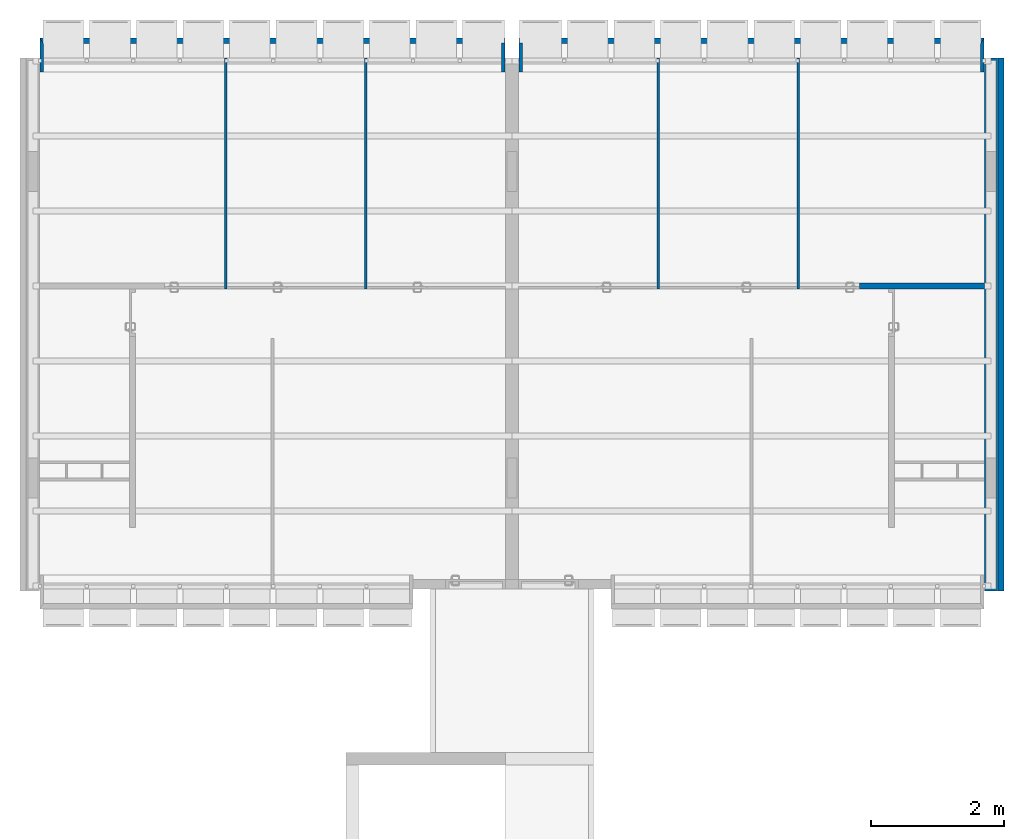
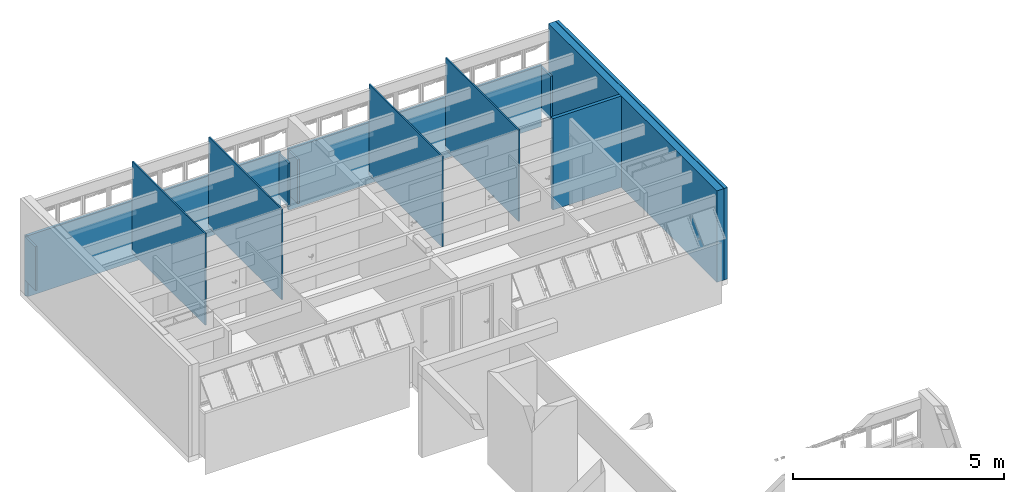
# One storey, part 40 of 40: 13 walls.
"""IFC4 building model written with IfcOpenShell, lengths in millimetres."""

import ifcopenshell
import ifcopenshell.guid

model = None  # the IFC model being written
_history = None  # IfcOwnerHistory: only IFC2X3 demands one
_inside = {}  # id of a spatial element -> (the spatial element, [elements in it])
_under = {}  # id of a project, library or spatial element -> (it, [spatial elements below it])
_declared = {}  # id of a project -> (the project, [libraries it declares])
_typed = {}  # id of a type object -> (the type object, [elements of that type])
_made_of = {}  # id of a material, layer set ... -> (it, [elements and type objects made of it])


def new_model(schema):
    """Start an empty IFC model of exactly this schema.

    Asked for "IFC4X3", IfcOpenShell would pick the latest addendum, in which some entities
    have other attributes; the version numbers below select the first issue.
    IFC2X3 requires an IfcOwnerHistory on every rooted entity: one is made here for all.
    """
    global model, _history
    if schema == "IFC4X3":
        model = ifcopenshell.file(schema_version=(4, 3, 0, 0))
    else:
        model = ifcopenshell.file(schema=schema)
    _inside.clear()
    _under.clear()
    _declared.clear()
    _typed.clear()
    _made_of.clear()
    _history = None
    if model.schema == "IFC2X3":
        org = make("IfcOrganization", Name="unknown")
        user = make(
            "IfcPersonAndOrganization",
            ThePerson=make("IfcPerson", FamilyName="unknown"),
            TheOrganization=org,
        )
        app = make(
            "IfcApplication",
            ApplicationDeveloper=org,
            Version="unknown",
            ApplicationFullName="unknown",
            ApplicationIdentifier="unknown",
        )
        _history = make(
            "IfcOwnerHistory",
            OwningUser=user,
            OwningApplication=app,
            ChangeAction="ADDED",
            CreationDate=0,
        )
    return model


def make(cls, **values):
    """One entity of the class cls with the attributes given. An attribute that is None is left unset."""
    return model.create_entity(
        cls, **{name: value for name, value in values.items() if value is not None}
    )


def entity(cls, *values):
    """Any entity or typed value of the class cls, its attributes in the order of the schema. None: left unset."""
    e = model.create_entity(cls)
    for i, value in enumerate(values):
        if value is not None:
            e[i] = value
    return e


def rooted(cls, **values):
    """An entity with a GlobalId (a new one), such as an element, a storey or a relation."""
    return make(cls, GlobalId=ifcopenshell.guid.new(), OwnerHistory=_history, **values)


def si_unit(unit_type, name, prefix=None):
    """IfcSIUnit, for example si_unit("LENGTHUNIT", "METRE", prefix="MILLI")."""
    return make("IfcSIUnit", UnitType=unit_type, Prefix=prefix, Name=name)


def converted_unit(unit_type, name, factor, base, dimensions=None, offset=None):
    """IfcConversionBasedUnit, such as the inch: factor (a typed value) times the base unit."""
    return make(
        "IfcConversionBasedUnit"
        if offset is None
        else "IfcConversionBasedUnitWithOffset",
        ConversionOffset=offset,
        Dimensions=None
        if dimensions is None
        else entity("IfcDimensionalExponents", *dimensions),
        UnitType=unit_type,
        Name=name,
        ConversionFactor=make(
            "IfcMeasureWithUnit", ValueComponent=factor, UnitComponent=base
        ),
    )


def derived_unit(unit_type, elements):
    """IfcDerivedUnit: a product of units, each with its exponent."""
    return make(
        "IfcDerivedUnit",
        Elements=[
            make("IfcDerivedUnitElement", Unit=unit, Exponent=power)
            for unit, power in elements
        ],
        UnitType=unit_type,
    )


def assignment(units):
    """IfcUnitAssignment: the units of a project."""
    return None if units is None else make("IfcUnitAssignment", Units=units)


def point(xyz):
    """IfcCartesianPoint."""
    return None if xyz is None else make("IfcCartesianPoint", Coordinates=xyz)


def direction(xyz):
    """IfcDirection."""
    return None if xyz is None else make("IfcDirection", DirectionRatios=xyz)


def frame(location, z_axis=None, x_axis=None):
    """IfcAxis2Placement3D, a coordinate frame: its origin and axes. An axis left out is left unset."""
    return make(
        "IfcAxis2Placement3D",
        Location=point(location),
        Axis=direction(z_axis),
        RefDirection=direction(x_axis),
    )


def origin_with_axes():
    """The frame at (0, 0, 0) with the z axis (0, 0, 1) and the x axis (1, 0, 0) written out."""
    return frame((0.0, 0.0, 0.0), z_axis=(0.0, 0.0, 1.0), x_axis=(1.0, 0.0, 0.0))


def place(relative_to, where):
    """IfcLocalPlacement: puts the frame where relative to a parent placement (None: the world)."""
    return make(
        "IfcLocalPlacement", PlacementRelTo=relative_to, RelativePlacement=where
    )


def context(
    kind, dimensions, precision=None, world=None, true_north=None, identifier=None
):
    """IfcGeometricRepresentationContext, for example the 3D "Model" context."""
    return make(
        "IfcGeometricRepresentationContext",
        ContextIdentifier=identifier,
        ContextType=kind,
        CoordinateSpaceDimension=dimensions,
        Precision=precision,
        WorldCoordinateSystem=world,
        TrueNorth=true_north,
    )


def subcontext(parent, identifier, kind, view, scale=None):
    """IfcGeometricRepresentationSubContext, for example "Body" below "Model"."""
    return make(
        "IfcGeometricRepresentationSubContext",
        ContextIdentifier=identifier,
        ContextType=kind,
        ParentContext=parent,
        TargetScale=scale,
        TargetView=view,
    )


def project(units=None, contexts=None):
    """IfcProject with its units and contexts."""
    return rooted(
        "IfcProject",
        Name="project",
        RepresentationContexts=contexts,
        UnitsInContext=assignment(units),
    )


def spatial(cls, under=None, at=None, **own):
    """A site, building, storey or space (cls), placed at a placement, below another one or the project."""
    s = rooted(cls, ObjectPlacement=at, **own)
    if under is not None:
        _under.setdefault(under.id(), (under, []))[1].append(s)
    return s


def point_list(points):
    """IfcCartesianPointList2D or 3D."""
    cls = (
        "IfcCartesianPointList2D" if len(points[0]) == 2 else "IfcCartesianPointList3D"
    )
    return make(cls, CoordList=points)


def line(*indices):
    """IfcLineIndex: a straight run through numbered points of an indexed curve."""
    return model.create_entity("IfcLineIndex", indices)


def indexed_curve(points, segments=None, self_intersect=None):
    """IfcIndexedPolyCurve: lines and arcs through numbered points (the first is 1)."""
    return make(
        "IfcIndexedPolyCurve",
        Points=point_list(points),
        Segments=segments,
        SelfIntersect=self_intersect,
    )


def outline(outer, holes=None, kind="AREA"):
    """IfcArbitraryClosedProfileDef: a profile drawn as a closed curve; with holes, ...WithVoids."""
    if holes is None:
        return make("IfcArbitraryClosedProfileDef", ProfileType=kind, OuterCurve=outer)
    return make(
        "IfcArbitraryProfileDefWithVoids",
        ProfileType=kind,
        OuterCurve=outer,
        InnerCurves=holes,
    )


def extrude(swept, where, along, depth):
    """IfcExtrudedAreaSolid: the profile swept, set in the frame where, extruded along a direction by depth."""
    return make(
        "IfcExtrudedAreaSolid",
        SweptArea=swept,
        Position=where,
        ExtrudedDirection=direction(along),
        Depth=depth,
    )


def shape(context_of_items, identifier, shape_type, items):
    """IfcShapeRepresentation: the items that make up one representation, for example the "Body"."""
    return make(
        "IfcShapeRepresentation",
        ContextOfItems=context_of_items,
        RepresentationIdentifier=identifier,
        RepresentationType=shape_type,
        Items=items,
    )


def material(Name=None, Category=None):
    """IfcMaterial."""
    return make("IfcMaterial", Name=Name, Category=Category)


def layer(
    of_material, thickness, ventilated=None, Name=None, Category=None, Priority=None
):
    """IfcMaterialLayer: one layer of a wall or slab, of a material (None: an air gap)."""
    return make(
        "IfcMaterialLayer",
        Material=of_material,
        LayerThickness=thickness,
        IsVentilated=ventilated,
        Name=Name,
        Category=Category,
        Priority=Priority,
    )


def layer_set(layers, Name=None):
    """IfcMaterialLayerSet."""
    return make("IfcMaterialLayerSet", MaterialLayers=layers, LayerSetName=Name)


def layer_usage(for_layer_set, set_direction, sense, offset, extent=None):
    """IfcMaterialLayerSetUsage: how a layer set lies in its element."""
    return make(
        "IfcMaterialLayerSetUsage",
        ForLayerSet=for_layer_set,
        LayerSetDirection=set_direction,
        DirectionSense=sense,
        OffsetFromReferenceLine=offset,
        ReferenceExtent=extent,
    )


def made_of(thing, what):
    """Note that an element or type object is made of a material, layer set ...; save() writes the relation."""
    if what is not None:
        _made_of.setdefault(what.id(), (what, []))[1].append(thing)
    return thing


def type_object(cls, material=None, **own):
    """A type object (cls), such as IfcWallType, which elements share."""
    return made_of(rooted(cls, **own), material)


def element(
    cls,
    number,
    at=None,
    inside=None,
    cuts=None,
    type_object=None,
    material=None,
    context=None,
    identifier="Body",
    shape_type=None,
    held_by="IfcProductDefinitionShape",
    body=None,
    shapes=None,
    **own,
):
    """One element of the class cls, such as IfcWall. Its Tag is "e" and its number.

    at: its placement. inside: the storey or other place that contains it. cuts: it is an
    opening in that element (IfcRelVoidsElement). A single representation is given by context,
    identifier, shape_type and body (its items); several are given by shapes. held_by: the class
    of the entity that holds the representations. save() writes the other relations.
    """
    e = rooted(cls, Tag="e%d" % number, ObjectPlacement=at, **own)
    if body is not None:
        shapes = [shape(context, identifier, shape_type, body)]
    if shapes is not None:
        e.Representation = make(held_by, Representations=shapes)
    if inside is not None:
        _inside.setdefault(inside.id(), (inside, []))[1].append(e)
    if cuts is not None:
        rooted(
            "IfcRelVoidsElement", RelatingBuildingElement=cuts, RelatedOpeningElement=e
        )
    if type_object is not None:
        _typed.setdefault(type_object.id(), (type_object, []))[1].append(e)
    return made_of(e, material)


def aggregate(whole, parts):
    """IfcRelAggregates: a whole, such as a stair, and the parts it consists of."""
    return rooted("IfcRelAggregates", RelatingObject=whole, RelatedObjects=parts)


def save(model, path):
    """Write the relations noted so far, then the file.

    IfcRelAggregates (storeys below a building ...), IfcRelContainedInSpatialStructure (elements
    in a storey), IfcRelDefinesByType, IfcRelAssociatesMaterial and IfcRelDeclares: one each for
    every whole, place, type object, material and project.
    """
    for whole, parts in _under.values():
        aggregate(whole, parts)
    for where, things in _inside.values():
        rooted(
            "IfcRelContainedInSpatialStructure",
            RelatedElements=things,
            RelatingStructure=where,
        )
    for kind, things in _typed.values():
        rooted("IfcRelDefinesByType", RelatedObjects=things, RelatingType=kind)
    for what, things in _made_of.values():
        rooted("IfcRelAssociatesMaterial", RelatedObjects=things, RelatingMaterial=what)
    for by, libraries in _declared.values():
        rooted("IfcRelDeclares", RelatingContext=by, RelatedDefinitions=libraries)
    model.write(path)


model = new_model("IFC4")

# Units and contexts
model_context = context("Model", 3, precision=0.01, world=origin_with_axes(), true_north=direction((0.0, 1.0)))
body_context = subcontext(model_context, "Body", "Model", "MODEL_VIEW")
ifc_project = project(units=[si_unit("LENGTHUNIT", "METRE", prefix="MILLI"), si_unit("AREAUNIT", "SQUARE_METRE"), si_unit("VOLUMEUNIT", "CUBIC_METRE"), converted_unit("PLANEANGLEUNIT", "DEGREE", entity("IfcPlaneAngleMeasure", 0.0174532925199), si_unit("PLANEANGLEUNIT", "RADIAN"), dimensions=[0, 0, 0, 0, 0, 0, 0]), converted_unit("TIMEUNIT", "Year", entity("IfcTimeMeasure", 31556926.0), si_unit("TIMEUNIT", "SECOND"), dimensions=[0, 0, 1, 0, 0, 0, 0]), si_unit("MASSUNIT", "GRAM", prefix="KILO"), si_unit("THERMODYNAMICTEMPERATUREUNIT", "DEGREE_CELSIUS"), si_unit("LUMINOUSINTENSITYUNIT", "LUMEN"), si_unit("ENERGYUNIT", "JOULE", prefix="MEGA"), derived_unit("THERMALCONDUCTANCEUNIT", [(si_unit("POWERUNIT", "WATT"), 1), (si_unit("LENGTHUNIT", "METRE"), -1), (si_unit("THERMODYNAMICTEMPERATUREUNIT", "KELVIN"), -1)]), derived_unit("SPECIFICHEATCAPACITYUNIT", [(si_unit("ENERGYUNIT", "JOULE"), 1), (si_unit("MASSUNIT", "GRAM", prefix="KILO"), -1), (si_unit("THERMODYNAMICTEMPERATUREUNIT", "KELVIN"), -1)]), derived_unit("MASSDENSITYUNIT", [(si_unit("MASSUNIT", "GRAM", prefix="KILO"), 1), (si_unit("VOLUMEUNIT", "CUBIC_METRE"), -1)])], contexts=[model_context])

# Site, building, storey
site_placement = place(None, origin_with_axes())
site = spatial("IfcSite", under=ifc_project, at=site_placement, Name="Local", CompositionType="ELEMENT")
building_placement = place(site_placement, origin_with_axes())
building = spatial("IfcBuilding", under=site, at=building_placement, Name="Construção", CompositionType="ELEMENT")
storey_placement = place(building_placement, frame((0.0, 0.0, 5300.0), z_axis=(0.0, 0.0, 1.0), x_axis=(1.0, 0.0, 0.0)))
storey = spatial("IfcBuildingStorey", under=building, at=storey_placement, Name="Terceiro Pavimento", CompositionType="ELEMENT", Elevation=5300.0)

# Walls
ifc_material_1 = material(Name="GENÉRICO - VEDAÇÃO EXTERNA")
ifc_layer_1 = layer(ifc_material_1, 190.0, ventilated="UNKNOWN", Name="GENÉRICO - VEDAÇÃO EXTERNA")
ifc_layer_set_1 = layer_set([ifc_layer_1], Name="GENÉRICO - VEDAÇÃO EXTERNA 190")
ifc_layer_usage_1 = layer_usage(ifc_layer_set_1, "AXIS2", "NEGATIVE", 0.0)
wall_type_1 = type_object("IfcWallType", Name="GENÉRICO - VEDAÇÃO EXTERNA 190", PredefinedType="NOTDEFINED")
wall_1_placement = place(storey_placement, frame((14480.0, 17860.0, 0.0), z_axis=(0.0, 0.0, 1.0), x_axis=(0.0, 1.0, 0.0)))
element("IfcWall", 1, at=wall_1_placement, inside=storey, type_object=wall_type_1, material=ifc_layer_usage_1, Name="APTO12-PAREDE-013", PredefinedType="NOTDEFINED", context=body_context, shape_type="SweptSolid", body=[
    extrude(outline(indexed_curve([(0.0, -190.0), (8000.0, -190.0), (8000.0, 0.0), (0.0, 0.0)], segments=[line(1, 2, 3, 4, 1)])), origin_with_axes(), (0.0, 0.0, 1.0), 2650.0),
])
ifc_layer_2 = layer(ifc_material_1, 40.0, ventilated="UNKNOWN", Name="GENÉRICO - VEDAÇÃO EXTERNA")
ifc_layer_set_2 = layer_set([ifc_layer_2], Name="GENÉRICO - VEDAÇÃO EXTERNA 40")
ifc_layer_usage_2 = layer_usage(ifc_layer_set_2, "AXIS2", "POSITIVE", 0.0)
wall_type_2 = type_object("IfcWallType", Name="GENÉRICO - VEDAÇÃO EXTERNA 40", PredefinedType="NOTDEFINED")
wall_2_placement = place(storey_placement, frame((5210.0, 22395.0, 0.0), z_axis=(0.0, 0.0, 1.0), x_axis=(0.0, 1.0, 0.0)))
element("IfcWall", 2, at=wall_2_placement, inside=storey, type_object=wall_type_2, material=ifc_layer_usage_2, Name="APTO11-PAREDE-005", PredefinedType="NOTDEFINED", context=body_context, shape_type="SweptSolid", body=[
    extrude(outline(indexed_curve([(0.0, 0.0), (3465.0, 0.0), (3465.0, 40.0), (0.0, 40.0)], segments=[line(1, 2, 3, 4, 1)])), origin_with_axes(), (0.0, 0.0, 1.0), 2620.0),
])
ifc_layer_usage_3 = layer_usage(ifc_layer_set_2, "AXIS2", "POSITIVE", 0.0)
wall_3_placement = place(storey_placement, frame((3110.0, 22395.0, 0.0), z_axis=(0.0, 0.0, 1.0), x_axis=(0.0, 1.0, 0.0)))
element("IfcWall", 3, at=wall_3_placement, inside=storey, type_object=wall_type_2, material=ifc_layer_usage_3, Name="APTO11-PAREDE-007", PredefinedType="NOTDEFINED", context=body_context, shape_type="SweptSolid", body=[
    extrude(outline(indexed_curve([(0.0, 0.0), (3465.0, 0.0), (3465.0, 40.0), (0.0, 40.0)], segments=[line(1, 2, 3, 4, 1)])), origin_with_axes(), (0.0, 0.0, 1.0), 2650.0),
])
ifc_layer_usage_4 = layer_usage(ifc_layer_set_2, "AXIS2", "NEGATIVE", 0.0)
wall_4_placement = place(storey_placement, frame((9560.0, 22395.0, 0.0), z_axis=(0.0, 0.0, 1.0), x_axis=(0.0, 1.0, 0.0)))
element("IfcWall", 4, at=wall_4_placement, inside=storey, type_object=wall_type_2, material=ifc_layer_usage_4, Name="APTO12-PAREDE-005", PredefinedType="NOTDEFINED", context=body_context, shape_type="SweptSolid", body=[
    extrude(outline(indexed_curve([(0.0, -40.0), (3465.0, -40.0), (3465.0, 0.0), (0.0, 0.0)], segments=[line(1, 2, 3, 4, 1)])), origin_with_axes(), (0.0, 0.0, 1.0), 2620.0),
])
ifc_layer_usage_5 = layer_usage(ifc_layer_set_2, "AXIS2", "NEGATIVE", 0.0)
wall_5_placement = place(storey_placement, frame((11660.0, 22395.0, 0.0), z_axis=(0.0, 0.0, 1.0), x_axis=(0.0, 1.0, 0.0)))
element("IfcWall", 5, at=wall_5_placement, inside=storey, type_object=wall_type_2, material=ifc_layer_usage_5, Name="APTO12-PAREDE-007", PredefinedType="NOTDEFINED", context=body_context, shape_type="SweptSolid", body=[
    extrude(outline(indexed_curve([(0.0, -40.0), (3465.0, -40.0), (3465.0, 0.0), (0.0, 0.0)], segments=[line(1, 2, 3, 4, 1)])), origin_with_axes(), (0.0, 0.0, 1.0), 2650.0),
])
ifc_layer_3 = layer(ifc_material_1, 90.0, ventilated="UNKNOWN", Name="GENÉRICO - VEDAÇÃO EXTERNA")
ifc_layer_set_3 = layer_set([ifc_layer_3], Name="GENÉRICO - VEDAÇÃO EXTERNA 90")
ifc_layer_usage_6 = layer_usage(ifc_layer_set_3, "AXIS2", "NEGATIVE", 0.0)
wall_type_3 = type_object("IfcWallType", Name="GENÉRICO - VEDAÇÃO EXTERNA 90", PredefinedType="NOTDEFINED")
wall_6_placement = place(storey_placement, frame((14480.0, 22394.7804333, 0.0), z_axis=(0.0, 0.0, 1.0), x_axis=(-1.0, 0.0, 0.0)))
element("IfcWall", 6, at=wall_6_placement, inside=storey, type_object=wall_type_3, material=ifc_layer_usage_6, Name="APTO12-PAREDE-019", PredefinedType="NOTDEFINED", context=body_context, shape_type="SweptSolid", body=[
    extrude(outline(indexed_curve([(0.0, -90.0), (1879.99807021, -90.0), (1880.0, 0.0), (0.0, 0.0)], segments=[line(1, 2, 3, 4, 1)])), origin_with_axes(), (0.0, 0.0, 1.0), 2650.0),
])
ifc_layer_usage_7 = layer_usage(ifc_layer_set_3, "AXIS2", "NEGATIVE", 0.0)
wall_7_placement = place(storey_placement, frame((14680.0, 17860.0, 0.0), z_axis=(0.0, 0.0, 1.0), x_axis=(0.0, 1.0, 0.0)))
element("IfcWall", 7, at=wall_7_placement, inside=storey, type_object=wall_type_3, material=ifc_layer_usage_7, Name="APTO12-PAREDE-014", PredefinedType="NOTDEFINED", context=body_context, shape_type="SweptSolid", body=[
    extrude(outline(indexed_curve([(0.0, -90.0), (8000.0, -90.0), (8000.0, 0.0), (0.0, 0.0)], segments=[line(1, 2, 3, 4, 1)])), origin_with_axes(), (0.0, 0.0, 1.0), 2650.0),
])
ifc_material_2 = material(Name="Concreto Armado Moldado in Loco - Estrutural")
ifc_layer_4 = layer(ifc_material_2, 50.0, ventilated="UNKNOWN", Name="Concreto Armado Moldado in Loco - Estrutural")
ifc_layer_set_4 = layer_set([ifc_layer_4], Name="Concreto Armado Moldado in Loco - Estrutural 50")
ifc_layer_usage_8 = layer_usage(ifc_layer_set_4, "AXIS2", "POSITIVE", -50.0)
wall_type_4 = type_object("IfcWallType", Name="Concreto Armado Moldado in Loco - Estrutural 50", PredefinedType="NOTDEFINED")
wall_8_placement = place(storey_placement, frame((300.0, 25650.0, 0.0), z_axis=(0.0, 0.0, 1.0), x_axis=(0.0, 1.0, 0.0)))
element("IfcWall", 8, at=wall_8_placement, inside=storey, type_object=wall_type_4, material=ifc_layer_usage_8, Name="APTO11-PAREDE-002", PredefinedType="NOTDEFINED", context=body_context, shape_type="SweptSolid", body=[
    extrude(outline(indexed_curve([(0.0, -50.0), (430.0, -50.0), (510.0, 0.0), (0.0, 0.0)], segments=[line(1, 2, 3, 4, 1)])), origin_with_axes(), (0.0, 0.0, 1.0), 1270.0),
])
ifc_layer_usage_9 = layer_usage(ifc_layer_set_4, "AXIS2", "POSITIVE", -50.0)
wall_9_placement = place(storey_placement, frame((7230.0, 25650.0, 0.0), z_axis=(0.0, 0.0, 1.0), x_axis=(0.0, 1.0, 0.0)))
element("IfcWall", 9, at=wall_9_placement, inside=storey, type_object=wall_type_4, material=ifc_layer_usage_9, Name="APTO11-PAREDE-001", PredefinedType="NOTDEFINED", context=body_context, shape_type="SweptSolid", body=[
    extrude(outline(indexed_curve([(0.0, -50.0), (435.0, -50.0), (435.0, 0.0), (0.0, 0.0)], segments=[line(1, 2, 3, 4, 1)])), origin_with_axes(), (0.0, 0.0, 1.0), 1270.0),
])
ifc_layer_usage_10 = layer_usage(ifc_layer_set_4, "AXIS2", "NEGATIVE", 50.0)
wall_10_placement = place(storey_placement, frame((14470.0, 25650.0, 0.0), z_axis=(0.0, 0.0, 1.0), x_axis=(0.0, 1.0, 0.0)))
element("IfcWall", 10, at=wall_10_placement, inside=storey, type_object=wall_type_4, material=ifc_layer_usage_10, Name="APTO12-PAREDE-002", PredefinedType="NOTDEFINED", context=body_context, shape_type="SweptSolid", body=[
    extrude(outline(indexed_curve([(0.0, 0.0), (510.0, 0.0), (430.0, 50.0), (0.0, 50.0)], segments=[line(1, 2, 3, 4, 1)])), origin_with_axes(), (0.0, 0.0, 1.0), 1270.0),
])
ifc_layer_usage_11 = layer_usage(ifc_layer_set_4, "AXIS2", "NEGATIVE", 50.0)
wall_11_placement = place(storey_placement, frame((7540.0, 25650.0, 0.0), z_axis=(0.0, 0.0, 1.0), x_axis=(0.0, 1.0, 0.0)))
element("IfcWall", 11, at=wall_11_placement, inside=storey, type_object=wall_type_4, material=ifc_layer_usage_11, Name="APTO12-PAREDE-001", PredefinedType="NOTDEFINED", context=body_context, shape_type="SweptSolid", body=[
    extrude(outline(indexed_curve([(0.0, 0.0), (435.0, 0.0), (435.0, 50.0), (0.0, 50.0)], segments=[line(1, 2, 3, 4, 1)])), origin_with_axes(), (0.0, 0.0, 1.0), 1270.0),
])
ifc_layer_5 = layer(ifc_material_2, 80.0, ventilated="UNKNOWN", Name="Concreto Armado Moldado in Loco - Estrutural")
ifc_layer_set_5 = layer_set([ifc_layer_5], Name="Concreto Armado Moldado in Loco - Estrutural 80")
ifc_layer_usage_12 = layer_usage(ifc_layer_set_5, "AXIS2", "NEGATIVE", 80.0)
wall_type_5 = type_object("IfcWallType", Name="Concreto Armado Moldado in Loco - Estrutural 80", PredefinedType="NOTDEFINED")
wall_12_placement = place(storey_placement, frame((300.0, 26080.0, -450.0), z_axis=(0.0, 0.0, 1.0), x_axis=(1.0, 0.0, 0.0)))
element("IfcWall", 12, at=wall_12_placement, inside=storey, type_object=wall_type_5, material=ifc_layer_usage_12, Name="APTO11-PAREDE-015", PredefinedType="NOTDEFINED", context=body_context, shape_type="SweptSolid", body=[
    extrude(outline(indexed_curve([(50.0, 0.0), (6980.0, 0.0), (6980.0, 80.0), (0.0, 80.0)], segments=[line(1, 2, 3, 4, 1)])), origin_with_axes(), (0.0, 0.0, 1.0), 1765.0),
])
ifc_layer_usage_13 = layer_usage(ifc_layer_set_5, "AXIS2", "POSITIVE", -80.0)
wall_13_placement = place(storey_placement, frame((14470.0, 26080.0, -450.0), z_axis=(0.0, 0.0, 1.0), x_axis=(-1.0, 0.0, 0.0)))
element("IfcWall", 13, at=wall_13_placement, inside=storey, type_object=wall_type_5, material=ifc_layer_usage_13, Name="APTO12-PAREDE-015", PredefinedType="NOTDEFINED", context=body_context, shape_type="SweptSolid", body=[
    extrude(outline(indexed_curve([(0.0, -80.0), (6980.0, -80.0), (6980.0, 0.0), (50.0, 0.0)], segments=[line(1, 2, 3, 4, 1)])), origin_with_axes(), (0.0, 0.0, 1.0), 1765.0),
])

save(model, "model.ifc")
